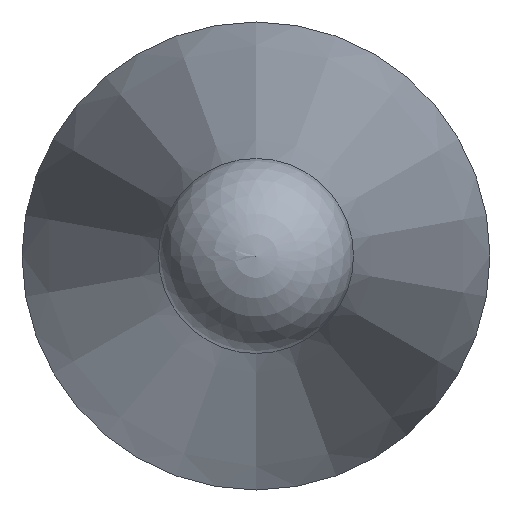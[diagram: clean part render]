
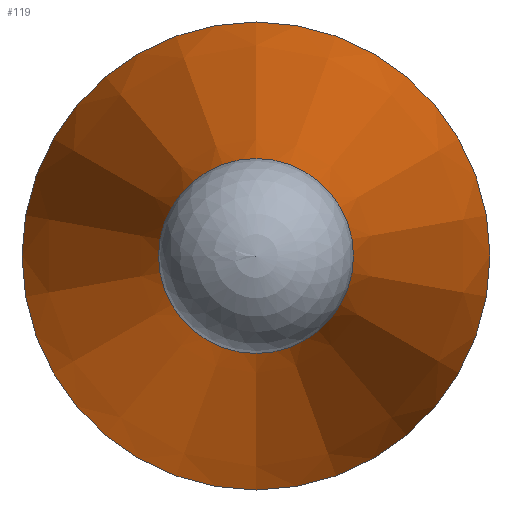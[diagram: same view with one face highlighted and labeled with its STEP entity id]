
A CAD part, left-side view. The second image highlights one B-rep face of the part: STEP entity #119.
In plain terms, the highlighted conical face has half-angle 11 degrees and reference radius 3 mm.
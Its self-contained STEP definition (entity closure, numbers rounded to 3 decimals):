
#93=CONICAL_SURFACE('',#191,3.,11.);
#106=FACE_BOUND('',#137,.T.);
#107=FACE_BOUND('',#138,.T.);
#119=ADVANCED_FACE('',(#106,#107),#93,.T.);
#137=EDGE_LOOP('',(#151));
#138=EDGE_LOOP('',(#152));
#151=ORIENTED_EDGE('',*,*,#168,.F.);
#152=ORIENTED_EDGE('',*,*,#169,.T.);
#161=VERTEX_POINT('',#244);
#162=VERTEX_POINT('',#247);
#168=EDGE_CURVE('',#161,#161,#175,.T.);
#169=EDGE_CURVE('',#162,#162,#176,.T.);
#175=CIRCLE('',#188,1.2);
#176=CIRCLE('',#190,3.);
#188=AXIS2_PLACEMENT_3D('',#243,#215,#216);
#190=AXIS2_PLACEMENT_3D('',#246,#219,#220);
#191=AXIS2_PLACEMENT_3D('',#248,#221,#222);
#215=DIRECTION('',(-1.,0.,0.));
#216=DIRECTION('',(0.,0.,1.));
#219=DIRECTION('',(-1.,0.,0.));
#220=DIRECTION('',(0.,0.,1.));
#221=DIRECTION('',(1.,0.,0.));
#222=DIRECTION('',(0.,0.,-1.));
#243=CARTESIAN_POINT('',(7882.538,6111.981,0.));
#244=CARTESIAN_POINT('',(7882.538,6111.981,1.2));
#246=CARTESIAN_POINT('',(7891.798,6111.981,0.));
#247=CARTESIAN_POINT('',(7891.798,6111.981,3.));
#248=CARTESIAN_POINT('',(7891.798,6111.981,0.));
